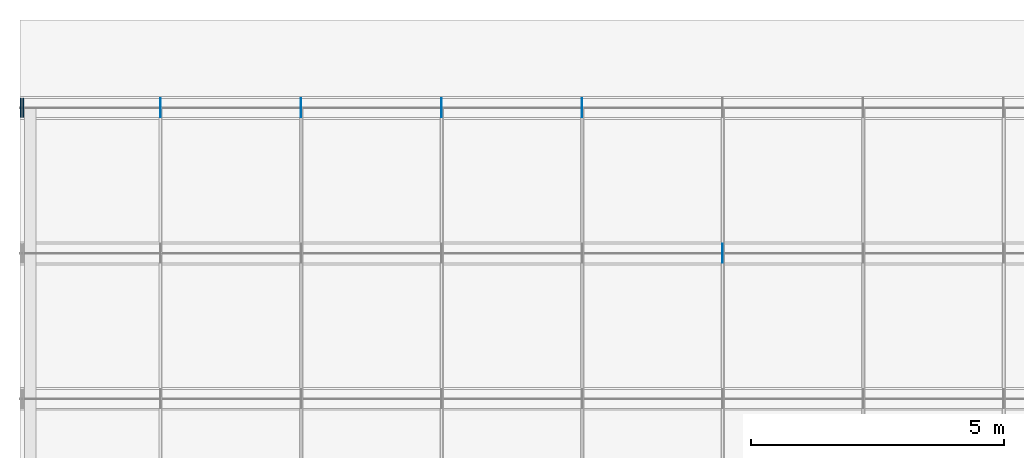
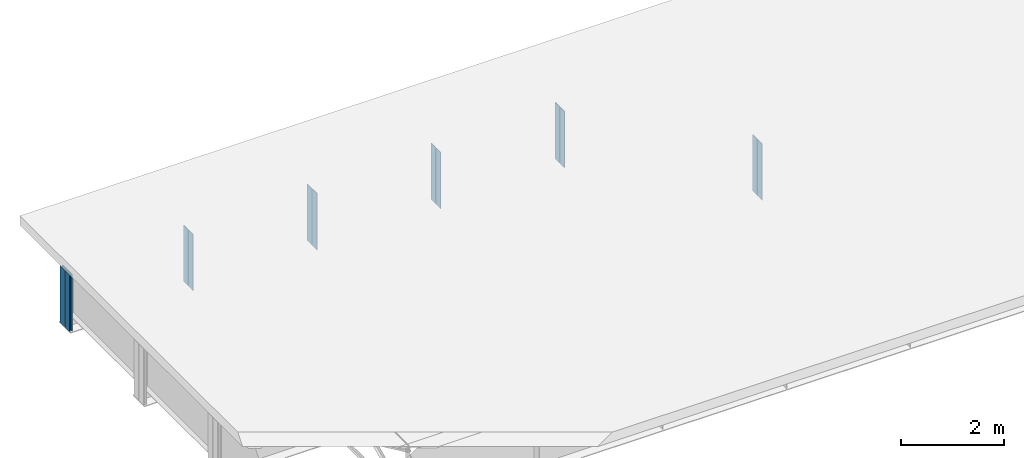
# One storey, part 8 of 10: 14 plates.
"""IFC4 building model written with IfcOpenShell, lengths in metres."""

import ifcopenshell
import ifcopenshell.guid

model = None  # the IFC model being written
_history = None  # IfcOwnerHistory: only IFC2X3 demands one
_inside = {}  # id of a spatial element -> (the spatial element, [elements in it])
_under = {}  # id of a project, library or spatial element -> (it, [spatial elements below it])
_declared = {}  # id of a project -> (the project, [libraries it declares])
_typed = {}  # id of a type object -> (the type object, [elements of that type])
_made_of = {}  # id of a material, layer set ... -> (it, [elements and type objects made of it])


def new_model(schema):
    """Start an empty IFC model of exactly this schema.

    Asked for "IFC4X3", IfcOpenShell would pick the latest addendum, in which some entities
    have other attributes; the version numbers below select the first issue.
    IFC2X3 requires an IfcOwnerHistory on every rooted entity: one is made here for all.
    """
    global model, _history
    if schema == "IFC4X3":
        model = ifcopenshell.file(schema_version=(4, 3, 0, 0))
    else:
        model = ifcopenshell.file(schema=schema)
    _inside.clear()
    _under.clear()
    _declared.clear()
    _typed.clear()
    _made_of.clear()
    _history = None
    if model.schema == "IFC2X3":
        org = make("IfcOrganization", Name="unknown")
        user = make(
            "IfcPersonAndOrganization",
            ThePerson=make("IfcPerson", FamilyName="unknown"),
            TheOrganization=org,
        )
        app = make(
            "IfcApplication",
            ApplicationDeveloper=org,
            Version="unknown",
            ApplicationFullName="unknown",
            ApplicationIdentifier="unknown",
        )
        _history = make(
            "IfcOwnerHistory",
            OwningUser=user,
            OwningApplication=app,
            ChangeAction="ADDED",
            CreationDate=0,
        )
    return model


def make(cls, **values):
    """One entity of the class cls with the attributes given. An attribute that is None is left unset."""
    return model.create_entity(
        cls, **{name: value for name, value in values.items() if value is not None}
    )


def rooted(cls, **values):
    """An entity with a GlobalId (a new one), such as an element, a storey or a relation."""
    return make(cls, GlobalId=ifcopenshell.guid.new(), OwnerHistory=_history, **values)


def si_unit(unit_type, name, prefix=None):
    """IfcSIUnit, for example si_unit("LENGTHUNIT", "METRE", prefix="MILLI")."""
    return make("IfcSIUnit", UnitType=unit_type, Prefix=prefix, Name=name)


def assignment(units):
    """IfcUnitAssignment: the units of a project."""
    return None if units is None else make("IfcUnitAssignment", Units=units)


def point(xyz):
    """IfcCartesianPoint."""
    return None if xyz is None else make("IfcCartesianPoint", Coordinates=xyz)


def direction(xyz):
    """IfcDirection."""
    return None if xyz is None else make("IfcDirection", DirectionRatios=xyz)


def frame(location, z_axis=None, x_axis=None):
    """IfcAxis2Placement3D, a coordinate frame: its origin and axes. An axis left out is left unset."""
    return make(
        "IfcAxis2Placement3D",
        Location=point(location),
        Axis=direction(z_axis),
        RefDirection=direction(x_axis),
    )


def frame_2d(location, x_axis=None):
    """IfcAxis2Placement2D, a coordinate frame in the plane: its origin and x axis."""
    return make(
        "IfcAxis2Placement2D", Location=point(location), RefDirection=direction(x_axis)
    )


def origin():
    """The frame at (0, 0, 0) with its axes left unset."""
    return frame((0.0, 0.0, 0.0))


def origin_with_axes():
    """The frame at (0, 0, 0) with the z axis (0, 0, 1) and the x axis (1, 0, 0) written out."""
    return frame((0.0, 0.0, 0.0), z_axis=(0.0, 0.0, 1.0), x_axis=(1.0, 0.0, 0.0))


def origin_2d_with_axis():
    """The frame at (0, 0) in the plane with the x axis (1, 0) written out."""
    return frame_2d((0.0, 0.0), x_axis=(1.0, 0.0))


def place(relative_to, where):
    """IfcLocalPlacement: puts the frame where relative to a parent placement (None: the world)."""
    return make(
        "IfcLocalPlacement", PlacementRelTo=relative_to, RelativePlacement=where
    )


def context(
    kind, dimensions, precision=None, world=None, true_north=None, identifier=None
):
    """IfcGeometricRepresentationContext, for example the 3D "Model" context."""
    return make(
        "IfcGeometricRepresentationContext",
        ContextIdentifier=identifier,
        ContextType=kind,
        CoordinateSpaceDimension=dimensions,
        Precision=precision,
        WorldCoordinateSystem=world,
        TrueNorth=true_north,
    )


def subcontext(parent, identifier, kind, view, scale=None):
    """IfcGeometricRepresentationSubContext, for example "Body" below "Model"."""
    return make(
        "IfcGeometricRepresentationSubContext",
        ContextIdentifier=identifier,
        ContextType=kind,
        ParentContext=parent,
        TargetScale=scale,
        TargetView=view,
    )


def project(units=None, contexts=None):
    """IfcProject with its units and contexts."""
    return rooted(
        "IfcProject",
        Name="project",
        RepresentationContexts=contexts,
        UnitsInContext=assignment(units),
    )


def spatial(cls, under=None, at=None, **own):
    """A site, building, storey or space (cls), placed at a placement, below another one or the project."""
    s = rooted(cls, ObjectPlacement=at, **own)
    if under is not None:
        _under.setdefault(under.id(), (under, []))[1].append(s)
    return s


def profile(cls, at=None, kind="AREA", **sizes):
    """A parametric profile (cls). Its sizes go by their IFC names, for example OverallWidth=200.0."""
    return make(cls, ProfileType=kind, Position=at, **sizes)


def rectangle(**sizes):
    """IfcRectangleProfileDef."""
    return profile("IfcRectangleProfileDef", **sizes)


def extrude(swept, where, along, depth):
    """IfcExtrudedAreaSolid: the profile swept, set in the frame where, extruded along a direction by depth."""
    return make(
        "IfcExtrudedAreaSolid",
        SweptArea=swept,
        Position=where,
        ExtrudedDirection=direction(along),
        Depth=depth,
    )


def shape(context_of_items, identifier, shape_type, items):
    """IfcShapeRepresentation: the items that make up one representation, for example the "Body"."""
    return make(
        "IfcShapeRepresentation",
        ContextOfItems=context_of_items,
        RepresentationIdentifier=identifier,
        RepresentationType=shape_type,
        Items=items,
    )


def made_of(thing, what):
    """Note that an element or type object is made of a material, layer set ...; save() writes the relation."""
    if what is not None:
        _made_of.setdefault(what.id(), (what, []))[1].append(thing)
    return thing


def element(
    cls,
    number,
    at=None,
    inside=None,
    cuts=None,
    type_object=None,
    material=None,
    context=None,
    identifier="Body",
    shape_type=None,
    held_by="IfcProductDefinitionShape",
    body=None,
    shapes=None,
    **own,
):
    """One element of the class cls, such as IfcWall. Its Tag is "e" and its number.

    at: its placement. inside: the storey or other place that contains it. cuts: it is an
    opening in that element (IfcRelVoidsElement). A single representation is given by context,
    identifier, shape_type and body (its items); several are given by shapes. held_by: the class
    of the entity that holds the representations. save() writes the other relations.
    """
    e = rooted(cls, Tag="e%d" % number, ObjectPlacement=at, **own)
    if body is not None:
        shapes = [shape(context, identifier, shape_type, body)]
    if shapes is not None:
        e.Representation = make(held_by, Representations=shapes)
    if inside is not None:
        _inside.setdefault(inside.id(), (inside, []))[1].append(e)
    if cuts is not None:
        rooted(
            "IfcRelVoidsElement", RelatingBuildingElement=cuts, RelatedOpeningElement=e
        )
    if type_object is not None:
        _typed.setdefault(type_object.id(), (type_object, []))[1].append(e)
    return made_of(e, material)


def aggregate(whole, parts):
    """IfcRelAggregates: a whole, such as a stair, and the parts it consists of."""
    return rooted("IfcRelAggregates", RelatingObject=whole, RelatedObjects=parts)


def save(model, path):
    """Write the relations noted so far, then the file.

    IfcRelAggregates (storeys below a building ...), IfcRelContainedInSpatialStructure (elements
    in a storey), IfcRelDefinesByType, IfcRelAssociatesMaterial and IfcRelDeclares: one each for
    every whole, place, type object, material and project.
    """
    for whole, parts in _under.values():
        aggregate(whole, parts)
    for where, things in _inside.values():
        rooted(
            "IfcRelContainedInSpatialStructure",
            RelatedElements=things,
            RelatingStructure=where,
        )
    for kind, things in _typed.values():
        rooted("IfcRelDefinesByType", RelatedObjects=things, RelatingType=kind)
    for what, things in _made_of.values():
        rooted("IfcRelAssociatesMaterial", RelatedObjects=things, RelatingMaterial=what)
    for by, libraries in _declared.values():
        rooted("IfcRelDeclares", RelatingContext=by, RelatedDefinitions=libraries)
    model.write(path)


model = new_model("IFC4")

# Units and contexts
model_context = context("Model", 3, precision=1e-05, world=origin())
body_context = subcontext(model_context, "Body", "Model", "MODEL_VIEW")
ifc_project = project(units=[si_unit("LENGTHUNIT", "METRE"), si_unit("AREAUNIT", "SQUARE_METRE"), si_unit("VOLUMEUNIT", "CUBIC_METRE"), si_unit("PLANEANGLEUNIT", "RADIAN")], contexts=[model_context])

# Site, building, storey
site_placement = place(None, origin_with_axes())
site = spatial("IfcSite", under=ifc_project, at=site_placement, Name="Default Site")
building_placement = place(site_placement, origin_with_axes())
building = spatial("IfcBuilding", under=site, at=building_placement, Name="Bridge Structure")
storey_placement = place(building_placement, origin_with_axes())
storey = spatial("IfcBuildingStorey", under=building, at=storey_placement, Name="Superstructure")

# Plates
for number, where, z_axis, x_axis, name in (
    (1, (13.885, 1.5342500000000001, -0.6685), (0.0, 0.0, 1.0), (1.0, 0.0, 0.0), "Intermediate Stiffener 3"),
    (2, (13.885, 1.34075, -0.6685), (0.0, 0.0, 1.0), (1.0, 0.0, 0.0), "Intermediate Stiffener 3"),
    (3, (2.777, 4.40925, -0.6685), (0.0, 0.0, 1.0), (1.0, 0.0, 0.0), "Intermediate Stiffener 4"),
    (4, (2.777, 4.21575, -0.6685), (0.0, 0.0, 1.0), (1.0, 0.0, 0.0), "Intermediate Stiffener 4"),
    (5, (5.554, 4.40925, -0.6685), (0.0, 0.0, 1.0), (1.0, 0.0, 0.0), "Intermediate Stiffener 4"),
    (6, (5.554, 4.21575, -0.6685), (0.0, 0.0, 1.0), (1.0, 0.0, 0.0), "Intermediate Stiffener 4"),
    (7, (8.331, 4.40925, -0.6685), (0.0, 0.0, 1.0), (1.0, 0.0, 0.0), "Intermediate Stiffener 4"),
    (8, (8.331, 4.21575, -0.6685), (0.0, 0.0, 1.0), (1.0, 0.0, 0.0), "Intermediate Stiffener 4"),
    (9, (11.108, 4.40925, -0.6685), (0.0, 0.0, 1.0), (1.0, 0.0, 0.0), "Intermediate Stiffener 4"),
    (10, (11.108, 4.21575, -0.6685), (0.0, 0.0, 1.0), (1.0, 0.0, 0.0), "Intermediate Stiffener 4"),
):
    element("IfcPlate", number, at=place(storey_placement, frame(where, z_axis=z_axis, x_axis=x_axis)), inside=storey, Name=name, context=body_context, shape_type="SweptSolid", body=[
        extrude(rectangle(XDim=0.012, YDim=0.1815, at=origin_2d_with_axis()), origin_with_axes(), (0.0, 0.0, 1.0), 1.337),
    ])
for number, where, z_axis, x_axis, name in (
    (11, (0.01, 4.40925, -0.6685), (0.0, 0.0, 1.0), (1.0, 0.0, 0.0), "End Stiffener 4"),
    (12, (0.01, 4.21575, -0.6685), (0.0, 0.0, 1.0), (1.0, 0.0, 0.0), "End Stiffener 4"),
    (13, (0.06, 4.40925, -0.6685), (0.0, 0.0, 1.0), (1.0, 0.0, 0.0), "End Stiffener 4"),
    (14, (0.06, 4.21575, -0.6685), (0.0, 0.0, 1.0), (1.0, 0.0, 0.0), "End Stiffener 4"),
):
    element("IfcPlate", number, at=place(storey_placement, frame(where, z_axis=z_axis, x_axis=x_axis)), inside=storey, Name=name, context=body_context, shape_type="SweptSolid", body=[
        extrude(rectangle(XDim=0.02, YDim=0.1815, at=origin_2d_with_axis()), origin_with_axes(), (0.0, 0.0, 1.0), 1.337),
    ])

save(model, "model.ifc")
